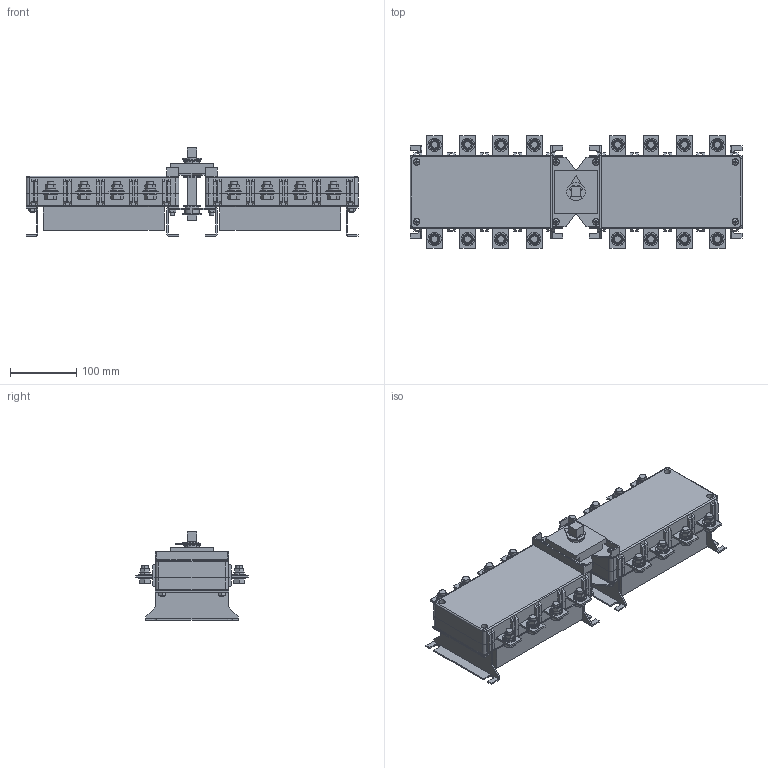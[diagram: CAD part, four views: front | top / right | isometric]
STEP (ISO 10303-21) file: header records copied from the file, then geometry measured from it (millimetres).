
FILE_DESCRIPTION((''),'2;1');
FILE_NAME('200-4S_ASM','2021-05-07T',('wangpeng'),(''),'PRO/ENGINEER BY PARAMETRIC TECHNOLOGY CORPORATION, 2009460','PRO/ENGINEER BY PARAMETRIC TECHNOLOGY CORPORATION, 2009460','');
FILE_SCHEMA(('AUTOMOTIVE_DESIGN { 1 0 10303 214 1 1 1 1 }'));
Length unit declared in the file: millimetre
Products named in the file (21): SB-200-4S; ZJB-200-4S; CT-200-4S; DB-200-4S; XB-200-4S; ZCB-200-4S; YB-200-4S; PDQ10; TDQ10; LSM10; 0LMM8; PDQ6; LDM6; 0LSM6; LMM6; ZSJNH40; FKSNH40; ZSJTNH40; ZZ-200-4S; DQM8; 200-4S_ASM
Assembly tree (150 placements, depth 2):
  200-4S_ASM
    SB-200-4S  x2
    ZJB-200-4S  x2
    CT-200-4S  x8
    DB-200-4S  x4
    XB-200-4S  x2
    ZCB-200-4S  x2
    YB-200-4S  x2
    PDQ10  x32
    TDQ10  x16
    LSM10  x16
    0LMM8  x16
    PDQ6  x16
    LDM6  x12
    0LSM6  x4
    LMM6  x8
    ZSJNH40
    FKSNH40  x3
    ZSJTNH40
    ZZ-200-4S
    DQM8  x2
Bounding box: 500 x 170 x 133 mm (x, y, z)
Volume: 4053984.2 mm3; surface area: 727157.9 mm2
Topology: 150 solids, 150 shells, 2776 faces, 7121 edges, 4700 vertices
Faces by surface type: plane 1581, cylinder 699, cone 352, bspline 96, sphere 32, torus 16
Entity records: 25866 total; most frequent: CARTESIAN_POINT 6746, DIRECTION 3612, ORIENTED_EDGE 3462, EDGE_CURVE 1731, VECTOR 1284, LINE 1284, AXIS2_PLACEMENT_3D 1164, VERTEX_POINT 1144
